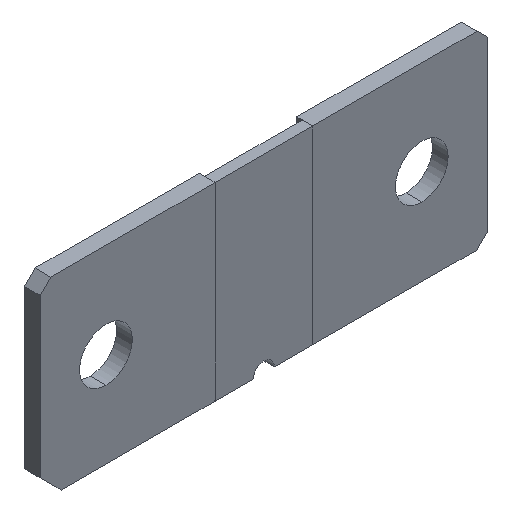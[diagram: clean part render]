
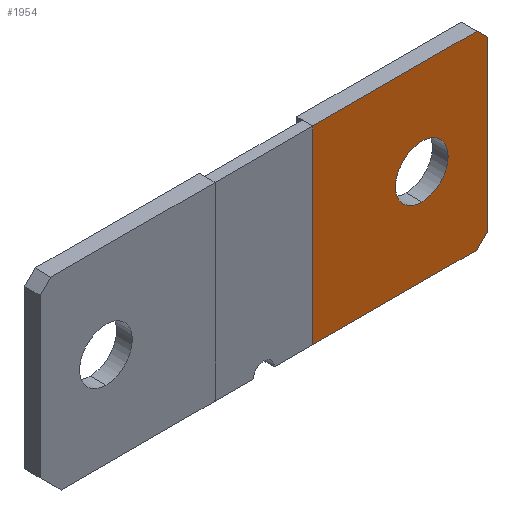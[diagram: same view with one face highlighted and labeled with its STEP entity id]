
A CAD part, isometric view. The second image highlights one B-rep face of the part: STEP entity #1954.
In plain terms, the highlighted planar face has unit normal (0, -1, 0).
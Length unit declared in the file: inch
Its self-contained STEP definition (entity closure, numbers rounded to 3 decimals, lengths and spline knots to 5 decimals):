
#25 = ORIENTED_EDGE ( 'NONE', *, *, #2175, .F. ) ;
#44 = VECTOR ( 'NONE', #1827, 39.37008 ) ;
#57 = VECTOR ( 'NONE', #226, 39.37008 ) ;
#90 = DIRECTION ( 'NONE',  ( 0., 0., 1. ) ) ;
#111 = CARTESIAN_POINT ( 'NONE',  ( -0.70099, 0., -0.78205 ) ) ;
#125 = VECTOR ( 'NONE', #796, 39.37008 ) ;
#130 = EDGE_CURVE ( 'NONE', #1268, #964, #1632, .T. ) ;
#134 = CARTESIAN_POINT ( 'NONE',  ( -0.70099, 0., -0.78205 ) ) ;
#179 = EDGE_LOOP ( 'NONE', ( #1271, #1918, #645, #857, #930, #25 ) ) ;
#185 = VECTOR ( 'NONE', #1064, 39.37008 ) ;
#196 = FACE_BOUND ( 'NONE', #1154, .T. ) ;
#226 = DIRECTION ( 'NONE',  ( 0., 0., -1. ) ) ;
#372 = EDGE_CURVE ( 'NONE', #781, #2382, #2012, .T. ) ;
#443 = DIRECTION ( 'NONE',  ( 0., 0., 1. ) ) ;
#536 = DIRECTION ( 'NONE',  ( 0., 1., 0. ) ) ;
#549 = EDGE_CURVE ( 'NONE', #2382, #573, #1542, .T. ) ;
#572 = CARTESIAN_POINT ( 'NONE',  ( 0.60701, 0., -0.70305 ) ) ;
#573 = VERTEX_POINT ( 'NONE', #1951 ) ;
#579 = VERTEX_POINT ( 'NONE', #1037 ) ;
#587 = CARTESIAN_POINT ( 'NONE',  ( 0.52801, 0., -0.78205 ) ) ;
#606 = LINE ( 'NONE', #740, #125 ) ;
#611 = VERTEX_POINT ( 'NONE', #1444 ) ;
#645 = ORIENTED_EDGE ( 'NONE', *, *, #1467, .F. ) ;
#658 = AXIS2_PLACEMENT_3D ( 'NONE', #1463, #536, #1283 ) ;
#740 = CARTESIAN_POINT ( 'NONE',  ( 0.52801, 0., -0.78205 ) ) ;
#781 = VERTEX_POINT ( 'NONE', #587 ) ;
#796 = DIRECTION ( 'NONE',  ( -0.707, 0., -0.707 ) ) ;
#826 = DIRECTION ( 'NONE',  ( 0., 0., 1. ) ) ;
#839 = LINE ( 'NONE', #1144, #1367 ) ;
#846 = AXIS2_PLACEMENT_3D ( 'NONE', #2343, #1911, #443 ) ;
#849 = DIRECTION ( 'NONE',  ( 0.707, 0., -0.707 ) ) ;
#857 = ORIENTED_EDGE ( 'NONE', *, *, #1306, .F. ) ;
#924 = VERTEX_POINT ( 'NONE', #2142 ) ;
#930 = ORIENTED_EDGE ( 'NONE', *, *, #2061, .F. ) ;
#947 = FACE_OUTER_BOUND ( 'NONE', #179, .T. ) ;
#964 = VERTEX_POINT ( 'NONE', #1067 ) ;
#1035 = DIRECTION ( 'NONE',  ( 0., 1., 0. ) ) ;
#1037 = CARTESIAN_POINT ( 'NONE',  ( 0.60701, 0., -0.70305 ) ) ;
#1040 = LINE ( 'NONE', #1791, #44 ) ;
#1064 = DIRECTION ( 'NONE',  ( -1., 0., 0. ) ) ;
#1067 = CARTESIAN_POINT ( 'NONE',  ( 0.11501, 0., 0.12845 ) ) ;
#1137 = CARTESIAN_POINT ( 'NONE',  ( 0.11501, 0., -0.26555 ) ) ;
#1144 = CARTESIAN_POINT ( 'NONE',  ( 0.52801, 0., 0.63495 ) ) ;
#1154 = EDGE_LOOP ( 'NONE', ( #1780, #1829 ) ) ;
#1220 = AXIS2_PLACEMENT_3D ( 'NONE', #2359, #1035, #826 ) ;
#1268 = VERTEX_POINT ( 'NONE', #1137 ) ;
#1271 = ORIENTED_EDGE ( 'NONE', *, *, #549, .F. ) ;
#1283 = DIRECTION ( 'NONE',  ( 0., 0., 1. ) ) ;
#1288 = PLANE ( 'NONE',  #846 ) ;
#1306 = EDGE_CURVE ( 'NONE', #611, #579, #2284, .T. ) ;
#1367 = VECTOR ( 'NONE', #849, 39.37008 ) ;
#1444 = CARTESIAN_POINT ( 'NONE',  ( 0.60701, 0., 0.55595 ) ) ;
#1463 = CARTESIAN_POINT ( 'NONE',  ( 0.11501, 0., -0.06855 ) ) ;
#1467 = EDGE_CURVE ( 'NONE', #579, #781, #606, .T. ) ;
#1542 = LINE ( 'NONE', #2152, #2036 ) ;
#1581 = EDGE_CURVE ( 'NONE', #964, #1268, #2301, .T. ) ;
#1632 = CIRCLE ( 'NONE', #658, 0.197 ) ;
#1780 = ORIENTED_EDGE ( 'NONE', *, *, #1581, .T. ) ;
#1791 = CARTESIAN_POINT ( 'NONE',  ( -0.70099, 0., 0.63495 ) ) ;
#1827 = DIRECTION ( 'NONE',  ( 1., 0., 0. ) ) ;
#1829 = ORIENTED_EDGE ( 'NONE', *, *, #130, .T. ) ;
#1911 = DIRECTION ( 'NONE',  ( 0., 1., 0. ) ) ;
#1918 = ORIENTED_EDGE ( 'NONE', *, *, #372, .F. ) ;
#1951 = CARTESIAN_POINT ( 'NONE',  ( -0.70099, 0., 0.63495 ) ) ;
#1954 = ADVANCED_FACE ( 'NONE', ( #196, #947 ), #1288, .F. ) ;
#2012 = LINE ( 'NONE', #134, #185 ) ;
#2036 = VECTOR ( 'NONE', #90, 39.37008 ) ;
#2061 = EDGE_CURVE ( 'NONE', #924, #611, #839, .T. ) ;
#2142 = CARTESIAN_POINT ( 'NONE',  ( 0.52801, 0., 0.63495 ) ) ;
#2152 = CARTESIAN_POINT ( 'NONE',  ( -0.70099, 0., -0.78205 ) ) ;
#2175 = EDGE_CURVE ( 'NONE', #573, #924, #1040, .T. ) ;
#2284 = LINE ( 'NONE', #572, #57 ) ;
#2301 = CIRCLE ( 'NONE', #1220, 0.197 ) ;
#2343 = CARTESIAN_POINT ( 'NONE',  ( 0., 0., 0. ) ) ;
#2359 = CARTESIAN_POINT ( 'NONE',  ( 0.11501, 0., -0.06855 ) ) ;
#2382 = VERTEX_POINT ( 'NONE', #111 ) ;
